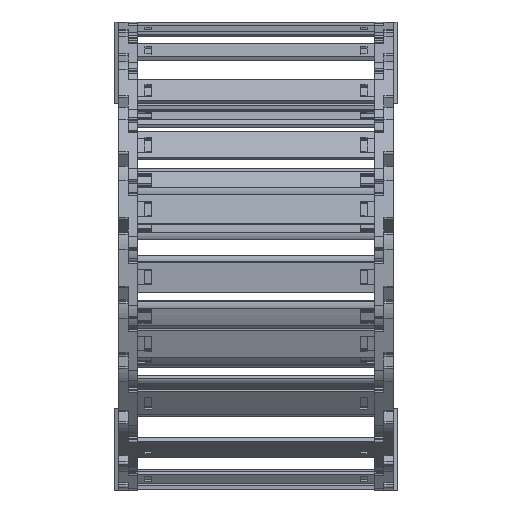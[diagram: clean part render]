
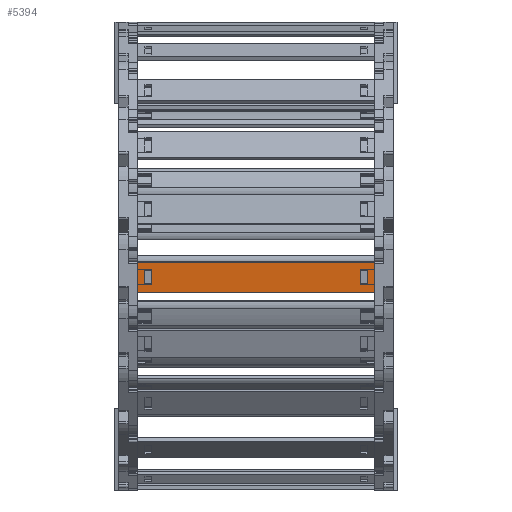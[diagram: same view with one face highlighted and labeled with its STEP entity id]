
A CAD part, left-side view. The second image highlights one B-rep face of the part: STEP entity #5394.
In plain terms, the highlighted planar face has unit normal (-0.996, 0, -0.087) as drawn and (0, 1, 0) by its records, which use the part's own axes.
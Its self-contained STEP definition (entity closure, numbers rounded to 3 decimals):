
#4814=DIRECTION('',(0.,0.,1.));
#4815=VECTOR('',#4814,15.8);
#4816=CARTESIAN_POINT('',(110.74,1.5,-7.9));
#4817=LINE('',#4816,#4815);
#4818=DIRECTION('',(-1.,0.,0.));
#4819=VECTOR('',#4818,125.5);
#4820=CARTESIAN_POINT('',(110.74,1.5,7.9));
#4821=LINE('',#4820,#4819);
#4822=DIRECTION('',(0.,0.,-1.));
#4823=VECTOR('',#4822,15.8);
#4824=CARTESIAN_POINT('',(-14.76,1.5,7.9));
#4825=LINE('',#4824,#4823);
#4826=DIRECTION('',(1.,0.,0.));
#4827=VECTOR('',#4826,3.648);
#4828=CARTESIAN_POINT('',(103.122,1.5,4.075));
#4829=LINE('',#4828,#4827);
#4830=DIRECTION('',(0.,0.,-1.));
#4831=VECTOR('',#4830,8.15);
#4832=CARTESIAN_POINT('',(106.77,1.5,4.075));
#4833=LINE('',#4832,#4831);
#4834=DIRECTION('',(-1.,0.,0.));
#4835=VECTOR('',#4834,3.648);
#4836=CARTESIAN_POINT('',(106.77,1.5,-4.075));
#4837=LINE('',#4836,#4835);
#4838=DIRECTION('',(0.,0.,-1.));
#4839=VECTOR('',#4838,8.15);
#4840=CARTESIAN_POINT('',(-7.142,1.5,4.075));
#4841=LINE('',#4840,#4839);
#4842=DIRECTION('',(-1.,0.,0.));
#4843=VECTOR('',#4842,3.648);
#4844=CARTESIAN_POINT('',(-7.142,1.5,-4.075));
#4845=LINE('',#4844,#4843);
#4846=DIRECTION('',(0.,0.,1.));
#4847=VECTOR('',#4846,8.15);
#4848=CARTESIAN_POINT('',(-10.79,1.5,-4.075));
#4849=LINE('',#4848,#4847);
#4850=DIRECTION('',(1.,0.,0.));
#4851=VECTOR('',#4850,3.648);
#4852=CARTESIAN_POINT('',(-10.79,1.5,4.075));
#4853=LINE('',#4852,#4851);
#4858=DIRECTION('',(-1.,0.,0.));
#4859=VECTOR('',#4858,125.5);
#4860=CARTESIAN_POINT('',(110.74,1.5,-7.9));
#4861=LINE('',#4860,#4859);
#4979=DIRECTION('',(0.,0.,-1.));
#4980=VECTOR('',#4979,8.15);
#4981=CARTESIAN_POINT('',(103.122,1.5,4.075));
#4982=LINE('',#4981,#4980);
#5164=CARTESIAN_POINT('',(106.77,1.5,4.075));
#5165=VERTEX_POINT('',#5164);
#5166=CARTESIAN_POINT('',(103.122,1.5,4.075));
#5167=VERTEX_POINT('',#5166);
#5208=CARTESIAN_POINT('',(103.122,1.5,-4.075));
#5209=VERTEX_POINT('',#5208);
#5210=CARTESIAN_POINT('',(106.77,1.5,-4.075));
#5211=VERTEX_POINT('',#5210);
#5212=CARTESIAN_POINT('',(110.74,1.5,7.9));
#5214=VERTEX_POINT('',#5212);
#5216=CARTESIAN_POINT('',(110.74,1.5,-7.9));
#5217=VERTEX_POINT('',#5216);
#5240=CARTESIAN_POINT('',(-7.142,1.5,4.075));
#5241=CARTESIAN_POINT('',(-7.142,1.5,-4.075));
#5242=VERTEX_POINT('',#5240);
#5243=VERTEX_POINT('',#5241);
#5244=CARTESIAN_POINT('',(-10.79,1.5,-4.075));
#5245=VERTEX_POINT('',#5244);
#5246=CARTESIAN_POINT('',(-10.79,1.5,4.075));
#5247=VERTEX_POINT('',#5246);
#5248=CARTESIAN_POINT('',(-14.76,1.5,7.9));
#5249=VERTEX_POINT('',#5248);
#5252=CARTESIAN_POINT('',(-14.76,1.5,-7.9));
#5253=VERTEX_POINT('',#5252);
#5363=CARTESIAN_POINT('',(142.48,1.5,10.061));
#5364=DIRECTION('',(0.,-1.,0.));
#5365=DIRECTION('',(0.,0.,-1.));
#5366=AXIS2_PLACEMENT_3D('',#5363,#5364,#5365);
#5367=PLANE('',#5366);
#5368=ORIENTED_EDGE('',*,*,#5302,.T.);
#5369=ORIENTED_EDGE('',*,*,#5328,.T.);
#5370=ORIENTED_EDGE('',*,*,#5341,.T.);
#5372=ORIENTED_EDGE('',*,*,#5371,.F.);
#5373=EDGE_LOOP('',(#5368,#5369,#5370,#5372));
#5374=FACE_OUTER_BOUND('',#5373,.F.);
#5376=ORIENTED_EDGE('',*,*,#5375,.F.);
#5377=ORIENTED_EDGE('',*,*,#5265,.T.);
#5379=ORIENTED_EDGE('',*,*,#5378,.T.);
#5381=ORIENTED_EDGE('',*,*,#5380,.T.);
#5382=EDGE_LOOP('',(#5376,#5377,#5379,#5381));
#5383=FACE_BOUND('',#5382,.F.);
#5385=ORIENTED_EDGE('',*,*,#5384,.T.);
#5387=ORIENTED_EDGE('',*,*,#5386,.T.);
#5389=ORIENTED_EDGE('',*,*,#5388,.T.);
#5391=ORIENTED_EDGE('',*,*,#5390,.T.);
#5392=EDGE_LOOP('',(#5385,#5387,#5389,#5391));
#5393=FACE_BOUND('',#5392,.F.);
#5394=ADVANCED_FACE('',(#5374,#5383,#5393),#5367,.F.);
#5265=EDGE_CURVE('',#5167,#5165,#4829,.T.);
#5302=EDGE_CURVE('',#5217,#5214,#4817,.T.);
#5328=EDGE_CURVE('',#5214,#5249,#4821,.T.);
#5341=EDGE_CURVE('',#5249,#5253,#4825,.T.);
#5371=EDGE_CURVE('',#5217,#5253,#4861,.T.);
#5375=EDGE_CURVE('',#5167,#5209,#4982,.T.);
#5378=EDGE_CURVE('',#5165,#5211,#4833,.T.);
#5380=EDGE_CURVE('',#5211,#5209,#4837,.T.);
#5384=EDGE_CURVE('',#5242,#5243,#4841,.T.);
#5386=EDGE_CURVE('',#5243,#5245,#4845,.T.);
#5388=EDGE_CURVE('',#5245,#5247,#4849,.T.);
#5390=EDGE_CURVE('',#5247,#5242,#4853,.T.);
